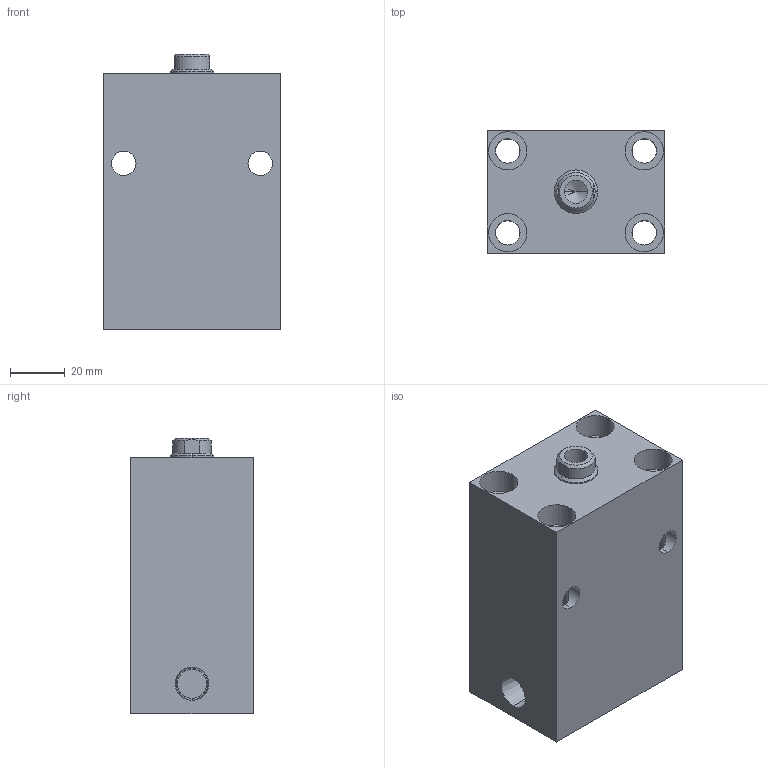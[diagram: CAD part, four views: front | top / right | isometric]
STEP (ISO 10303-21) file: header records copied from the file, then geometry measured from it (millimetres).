
FILE_DESCRIPTION (( 'STEP AP203' ), '1' );
FILE_NAME ('HBC-25S-20N.STEP', '2019-11-29T08:54:39', ( '微软用户' ), ( '微软中国' ), 'SwSTEP 2.0', 'SolidWorks 2012', '' );
FILE_SCHEMA (( 'CONFIG_CONTROL_DESIGN' ));
Length unit declared in the file: millimetre
Products named in the file (3): HBC-25S-20N活塞杆; HBC-25S-20N; HBC-25S-20N掛极
Assembly tree (2 placements, depth 2):
  HBC-25S-20N
    HBC-25S-20N掛极
    HBC-25S-20N活塞杆
Bounding box: 65 x 45 x 101 mm (x, y, z)
Volume: 242589.3 mm3; surface area: 41829.6 mm2
Topology: 2 solids, 2 shells, 73 faces, 178 edges, 107 vertices
Faces by surface type: cylinder 46, plane 19, cone 8
Entity records: 2465 total; most frequent: CARTESIAN_POINT 473, DIRECTION 366, ORIENTED_EDGE 352, EDGE_CURVE 176, AXIS2_PLACEMENT_3D 148, VERTEX_POINT 107, EDGE_LOOP 93, FACE_OUTER_BOUND 73
